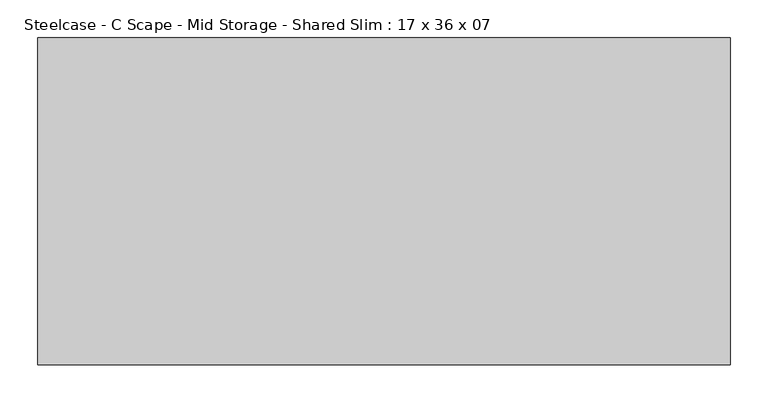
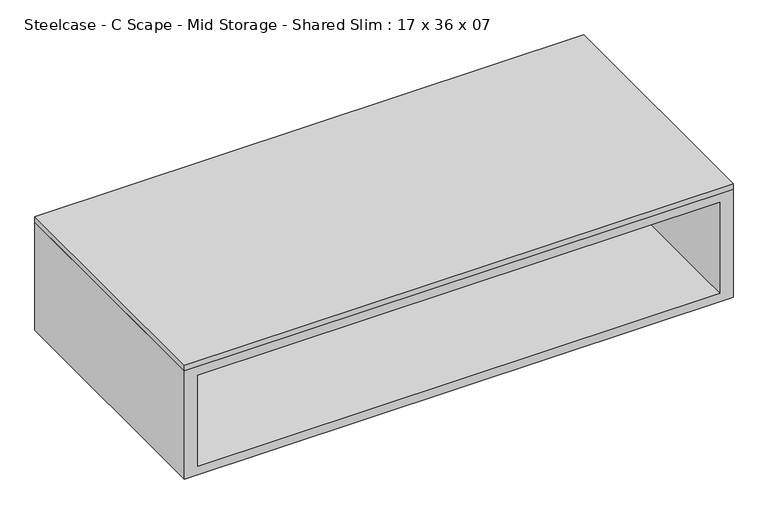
"""IFC4 building model written with IfcOpenShell, lengths in millimetres: furniture geometry, Steelcase - C Scape - Mid Storage - Shared Slim : 17 x 36 x 07."""

from ifc_helpers import new_model, si_unit, frame, origin, place, context, project, spatial, polyline, outline, extrude, source, transform, mapped, element, save


def steelcase_c_scape_mid_storage_shared_slim_17_x_36_x_07_1b7f61b1(model_context):
    return source(origin(), model_context, "Body", "SweptSolid", [
        extrude(outline(polyline([(914.4, 215.9), (914.4, -215.9), (0.0, -215.9), (0.0, 215.9), (914.4, 215.9)])), frame((0.0, 0.0, 1028.7), z_axis=(0.0, 0.0, 1.0), x_axis=(1.0, 0.0, 0.0)), (0.0, 0.0, 1.0), 10.16),
        extrude(outline(polyline([(892.302, 3.1751841), (892.302, -3.1744283), (21.9711633, -3.1744283), (21.9711633, 3.1751841), (892.302, 3.1751841)])), frame((0.0, 0.0, 853.4399855), z_axis=(0.0, 0.0, 1.0), x_axis=(1.0, 0.0, 0.0)), (0.0, 0.0, 1.0), 160.0200145),
        extrude(outline(polyline([(1028.7, 914.4), (1028.7, 0.0), (838.2, 0.0), (838.2, 914.4), (1028.7, 914.4)]), holes=[polyline([(1013.46, 892.302), (853.4399855, 892.302), (853.4399855, 21.9711633), (1013.46, 21.9711633), (1013.46, 892.302)])]), frame((0.0, -215.9, 0.0), z_axis=(0.0, 1.0, 0.0), x_axis=(0.0, 0.0, 1.0)), (0.0, 0.0, 1.0), 431.8),
    ])


if __name__ == "__main__":
    model = new_model("IFC4")
    model_context = context("Model", 3, world=origin())
    ifc_project = project(units=[si_unit("LENGTHUNIT", "METRE", prefix="MILLI")], contexts=[model_context])
    site = spatial("IfcSite", under=ifc_project)
    building = spatial("IfcBuilding", under=site)
    placement = place(None, origin())
    steelcase_c_scape_mid_storage_shared_slim_17_x_36_x_07_shape = steelcase_c_scape_mid_storage_shared_slim_17_x_36_x_07_1b7f61b1(model_context)
    element("IfcFurniture", 1, ObjectType="Steelcase - C Scape - Mid Storage - Shared Slim : 17 x 36 x 07", at=placement, inside=building, context=model_context, shape_type="MappedRepresentation", body=[
        mapped(steelcase_c_scape_mid_storage_shared_slim_17_x_36_x_07_shape, transform((0.0, 0.0, 0.0), x_axis=(1.0, 0.0, 0.0), y_axis=(0.0, 1.0, 0.0), z_axis=(0.0, 0.0, 1.0))),
    ])
    save(model, "model.ifc")
